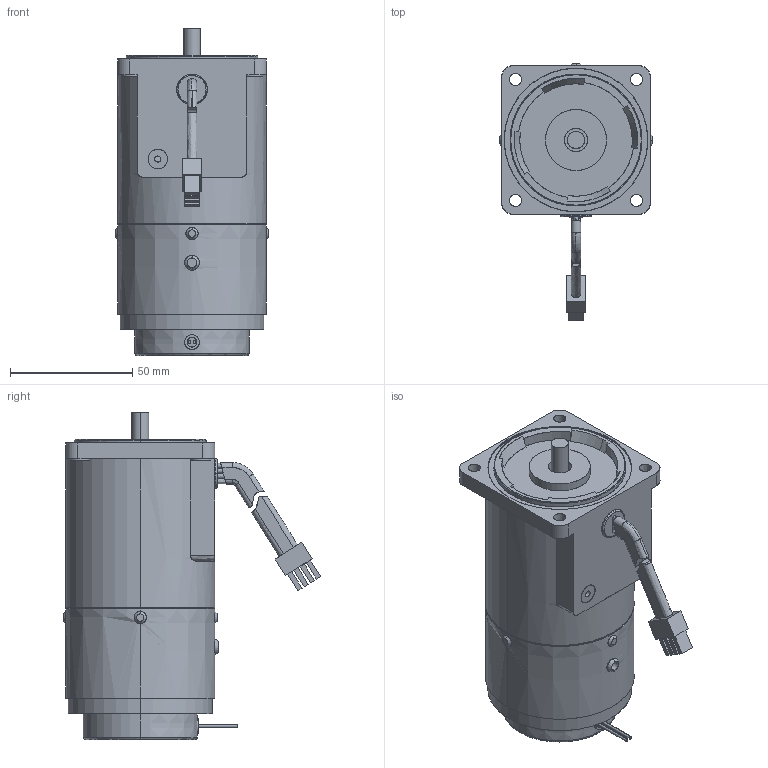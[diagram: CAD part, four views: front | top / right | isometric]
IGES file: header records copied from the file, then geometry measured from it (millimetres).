
Start section: SolidWorks IGES file using analytic representation for surfaces
Bounding box: 63 x 105.4 x 134 mm (x, y, z)
Surface area: 56037.7 mm2 (no closed solid volume)
Topology: 0 solids, 0 shells, 224 faces, 4499 edges, 4499 vertices
Faces by surface type: bspline 113, revolution 111
